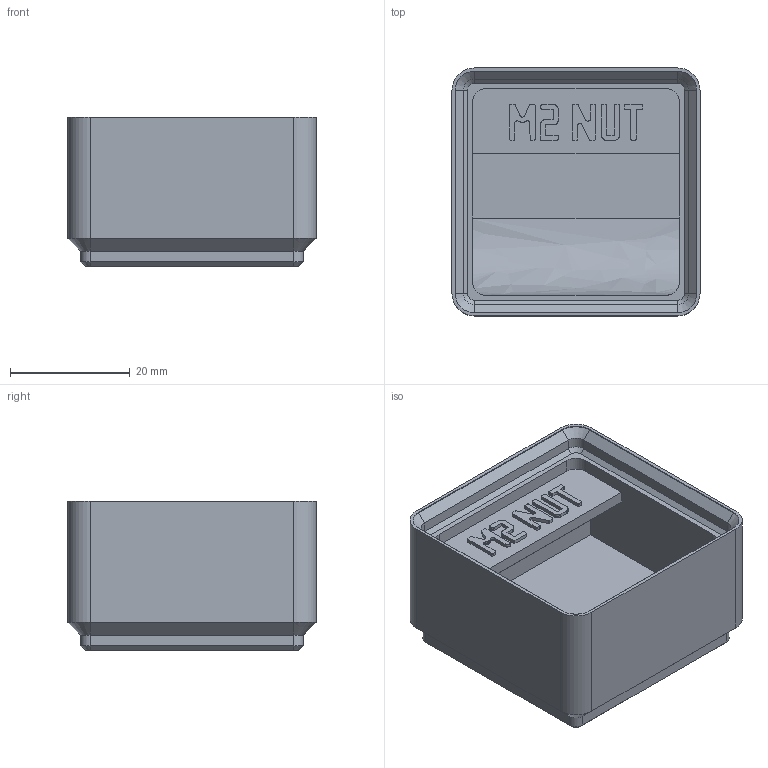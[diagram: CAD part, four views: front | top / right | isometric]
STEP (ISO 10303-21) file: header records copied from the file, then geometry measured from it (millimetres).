
FILE_DESCRIPTION(('Open CASCADE Model'),'2;1');
FILE_NAME('m2-nut','2026-11-17T16:07:53',('Author'),('Open CASCADE'), 'Open CASCADE STEP processor 8.0','build123d','Unknown');
FILE_SCHEMA(('AUTOMOTIVE_DESIGN { 1 0 10303 214 1 1 1 1 }'));
Length unit declared in the file: millimetre
Products named in the file (1): m2-nut
Bounding box: 41.5 x 41.5 x 25 mm (x, y, z)
Volume: 22471.1 mm3; surface area: 9521.6 mm2
Topology: 1 solids, 1 shells, 541 faces, 1548 edges, 1016 vertices
Faces by surface type: plane 504, cylinder 20, cone 16, extrusion 1
Entity records: 36562 total; most frequent: CARTESIAN_POINT 7509, DIRECTION 4705, VECTOR 3513, LINE 3512, ORIENTED_EDGE 3096, PCURVE 3096, DEFINITIONAL_REPRESENTATION 3096, EDGE_CURVE 1548
